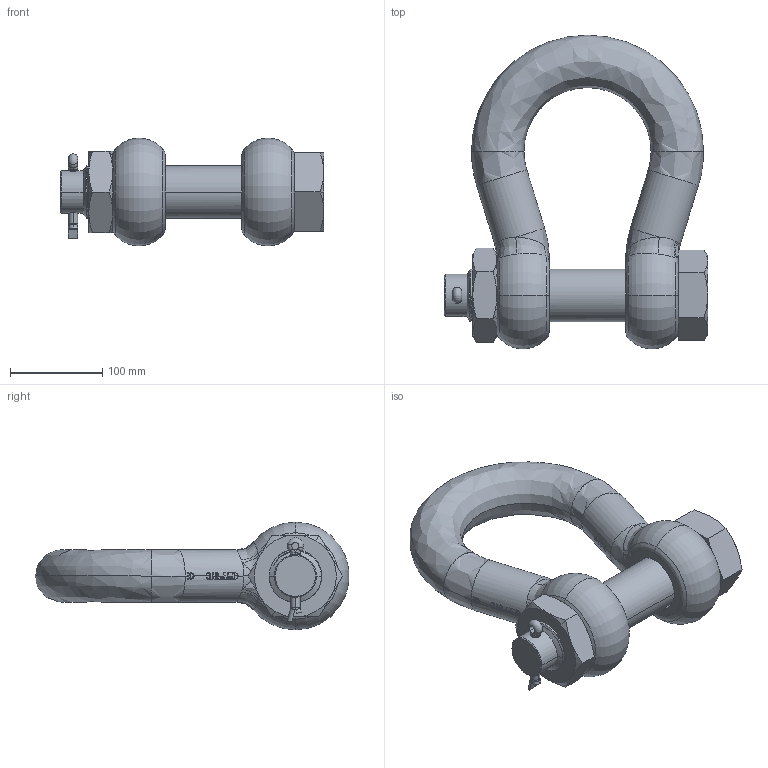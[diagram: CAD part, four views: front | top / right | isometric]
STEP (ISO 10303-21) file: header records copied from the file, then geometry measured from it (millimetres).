
FILE_DESCRIPTION (( 'STEP AP203' ), '1' );
FILE_NAME ('SUGHMB57.STEP', '2009-08-26T14:15:54', ( '.' ), ( '.' ), 'SwSTEP 2.0', 'SolidWorks 2009', '' );
FILE_SCHEMA (( 'CONFIG_CONTROL_DESIGN' ));
Length unit declared in the file: millimetre
Products named in the file (5): 55_3; SUGHMB57; 55; 55_1; 55_2
Assembly tree (4 placements, depth 2):
  SUGHMB57
    55
    55_1
    55_2
    55_3
Bounding box: 286 x 340.57 x 117 mm (x, y, z)
Volume: 2990736.6 mm3; surface area: 265983.3 mm2
Topology: 4 solids, 4 shells, 830 faces, 2507 edges, 1708 vertices
Faces by surface type: bspline 336, plane 327, cylinder 128, cone 28, torus 11
Entity records: 42282 total; most frequent: CARTESIAN_POINT 22680, ORIENTED_EDGE 4998, EDGE_CURVE 2499, DIRECTION 2362, VERTEX_POINT 1708, B_SPLINE_CURVE_WITH_KNOTS 1235, LINE 1062, VECTOR 1062
